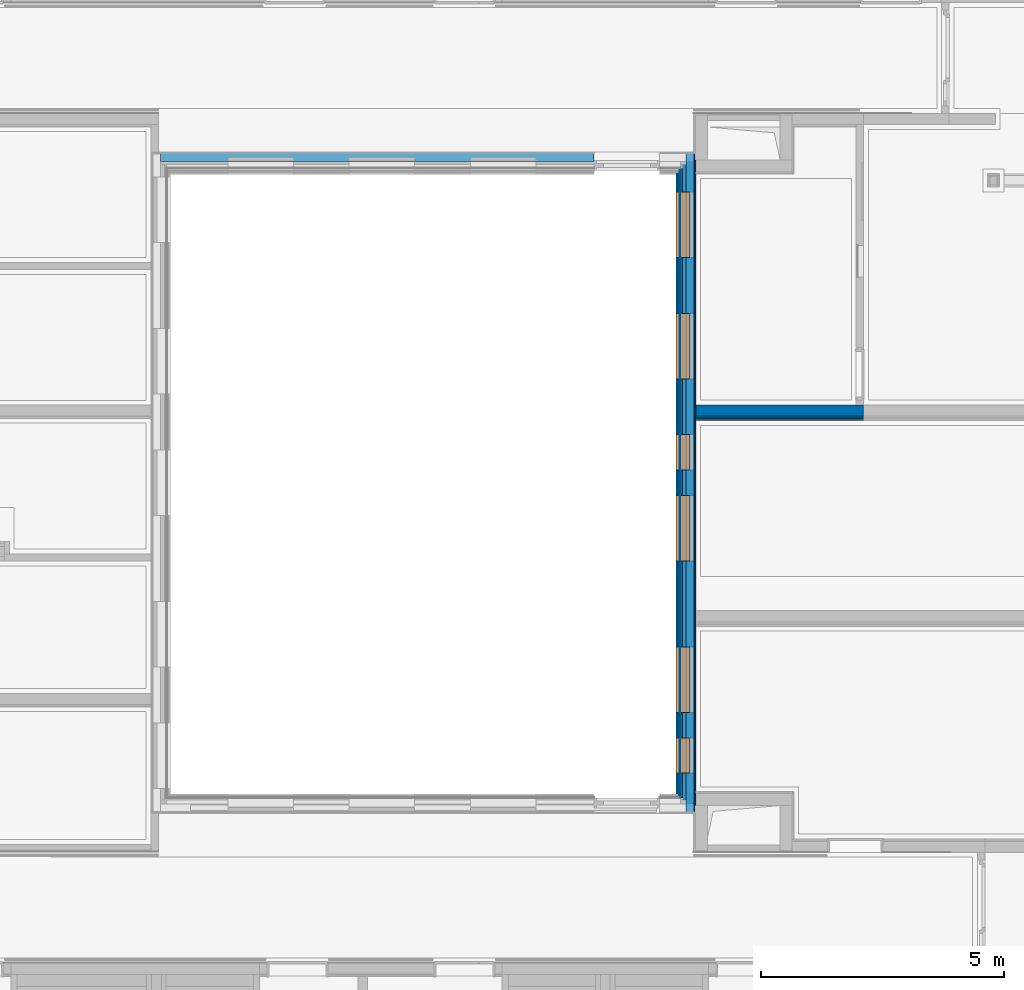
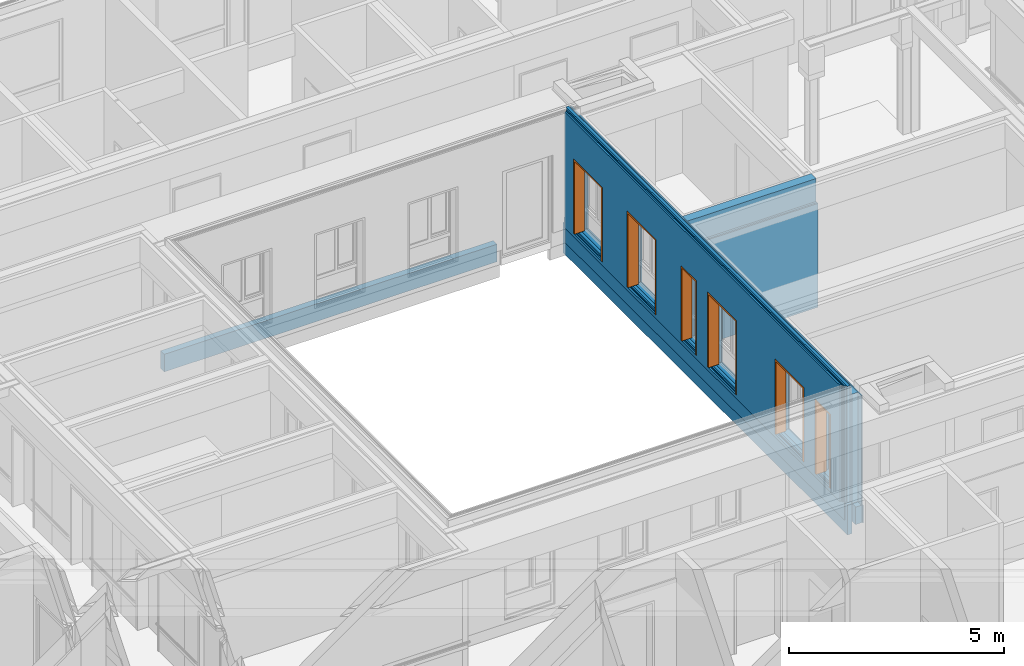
# One storey, part 18 of 207: 15 walls, 6 proxies, 42 openings.
"""IFC4 building model written with IfcOpenShell, lengths in metres."""

from ifc_helpers import new_model, entity, si_unit, converted_unit, derived_unit, frame, frame_2d, origin, origin_with_axes, place, context, subcontext, project, spatial, polyline, rectangle, outline, extrude, faceted_brep, material, element, fill, save


model = new_model("IFC4")

# Units and contexts
model_context = context("Model", 3, precision=1e-05, world=origin())
body_context = subcontext(model_context, "Body", "Model", "MODEL_VIEW")
ifc_project = project(units=[si_unit("LENGTHUNIT", "METRE"), si_unit("AREAUNIT", "SQUARE_METRE"), si_unit("VOLUMEUNIT", "CUBIC_METRE"), si_unit("MASSUNIT", "GRAM", prefix="KILO"), converted_unit("PLANEANGLEUNIT", "DEGREE", entity("IfcPlaneAngleMeasure", 0.0174532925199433), si_unit("PLANEANGLEUNIT", "RADIAN"), dimensions=[0, 0, 0, 0, 0, 0, 0]), derived_unit("THERMALTRANSMITTANCEUNIT", [(si_unit("POWERUNIT", "WATT"), 1), (si_unit("THERMODYNAMICTEMPERATUREUNIT", "KELVIN"), -1), (si_unit("LENGTHUNIT", "METRE"), -2)]), derived_unit("VOLUMETRICFLOWRATEUNIT", [(si_unit("LENGTHUNIT", "METRE"), 3), (converted_unit("TIMEUNIT", "hour", entity("IfcTimeMeasure", 3600.0), si_unit("TIMEUNIT", "SECOND"), dimensions=[0, 0, 1, 0, 0, 0, 0]), -1), (si_unit("LENGTHUNIT", "METRE"), -1)])], contexts=[model_context])

# Site, building, storey
site_placement = place(None, origin())
site = spatial("IfcSite", under=ifc_project, at=site_placement, Name="Psychiatrie Neubau Wunstorf", CompositionType="ELEMENT")
building_placement = place(site_placement, origin())
building = spatial("IfcBuilding", under=site, at=building_placement, Name="Neubau H2 Stationsgebäude", CompositionType="ELEMENT")
storey_placement = place(building_placement, frame((0.0, 0.0, -0.2)))
storey = spatial("IfcBuildingStorey", under=building, at=storey_placement, Name="H2 Ebene 0", CompositionType="ELEMENT", Elevation=-0.2)

# Wall, openings
ifc_material_1 = material(Name="WA-LB")
wall_1_placement = place(storey_placement, frame((26.861, 7.45, 0.5), z_axis=(0.0, 0.0, 1.0), x_axis=(5.36971041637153e-16, 1.0, 0.0)))
wall_1 = element("IfcWall", 1, at=wall_1_placement, inside=storey, material=ifc_material_1, context=body_context, shape_type="SweptSolid", body=[
    extrude(rectangle(XDim=13.55, YDim=0.036, at=frame_2d((6.775, 0.018), x_axis=(1.0, 0.0))), origin_with_axes(), (0.0, 0.0, 1.0), 3.1),
])
opening_1_placement = place(wall_1_placement, frame((3.39244477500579, 0.0359999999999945, 0.1), z_axis=(0.0, -1.0, 0.0), x_axis=(0.0, 0.0, 1.0)))
element("IfcOpeningElement", 2, at=opening_1_placement, cuts=wall_1, Name="Fensteröffnung", ObjectType="Opening", context=body_context, shape_type="SweptSolid", body=[
    extrude(outline(polyline([(2.12, 1.35), (2.12, 0.0), (0.0, 0.0), (0.0, 1.35), (2.12, 1.35)])), origin_with_axes(), (0.0, 0.0, 1.0), 0.036),
])
opening_2_placement = place(wall_1_placement, frame((7.76505754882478, 0.0360000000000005, 0.1), z_axis=(0.0, -1.0, 0.0), x_axis=(0.0, 0.0, 1.0)))
element("IfcOpeningElement", 3, at=opening_2_placement, cuts=wall_1, Name="Fensteröffnung", ObjectType="Opening", context=body_context, shape_type="SweptSolid", body=[
    extrude(outline(polyline([(2.12, 0.725), (2.12, 0.0), (0.0, 0.0), (0.0, 0.725), (2.12, 0.725)])), origin_with_axes(), (0.0, 0.0, 1.0), 0.036),
])
opening_3_placement = place(wall_1_placement, frame((12.765, 0.0359999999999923, 0.1), z_axis=(0.0, -1.0, 0.0), x_axis=(0.0, 0.0, 1.0)))
element("IfcOpeningElement", 4, at=opening_3_placement, cuts=wall_1, Name="Fensteröffnung", ObjectType="Opening", context=body_context, shape_type="SweptSolid", body=[
    extrude(outline(polyline([(2.12, 1.35), (2.12, 0.0), (0.0, 0.0), (0.0, 1.35), (2.12, 1.35)])), origin_with_axes(), (0.0, 0.0, 1.0), 0.036),
])
opening_4_placement = place(wall_1_placement, frame((10.2654401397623, 0.0359999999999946, 0.1), z_axis=(0.0, -1.0, 0.0), x_axis=(0.0, 0.0, 1.0)))
element("IfcOpeningElement", 5, at=opening_4_placement, cuts=wall_1, Name="Fensteröffnung", ObjectType="Opening", context=body_context, shape_type="SweptSolid", body=[
    extrude(outline(polyline([(2.15, 1.35), (2.15, 0.0), (0.0, 0.0), (0.0, 1.35), (2.15, 1.35)])), origin_with_axes(), (0.0, 0.0, 1.0), 0.036),
])
opening_5_placement = place(wall_1_placement, frame((1.51744478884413, 0.0359999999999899, 0.1), z_axis=(0.0, -1.0, 0.0), x_axis=(0.0, 0.0, 1.0)))
element("IfcOpeningElement", 6, at=opening_5_placement, cuts=wall_1, Name="Fensteröffnung", ObjectType="Opening", context=body_context, shape_type="SweptSolid", body=[
    extrude(outline(polyline([(2.12, 0.725), (2.12, 0.0), (0.0, 0.0), (0.0, 0.725), (2.12, 0.725)])), origin_with_axes(), (0.0, 0.0, 1.0), 0.036),
])
opening_6_placement = place(wall_1_placement, frame((6.51580066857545, 0.0359999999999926, 0.1), z_axis=(0.0, -1.0, 0.0), x_axis=(0.0, 0.0, 1.0)))
element("IfcOpeningElement", 7, at=opening_6_placement, cuts=wall_1, Name="Fensteröffnung", ObjectType="Opening", context=body_context, shape_type="SweptSolid", body=[
    extrude(outline(polyline([(2.12, 1.35), (2.12, 0.0), (0.0, 0.0), (0.0, 1.35), (2.12, 1.35)])), origin_with_axes(), (0.0, 0.0, 1.0), 0.036),
])

# Wall, openings, proxies
ifc_material_2 = material(Name="WA-HD")
wall_2_placement = place(storey_placement, frame((26.825, 7.61, 0.5), z_axis=(0.0, 0.0, 1.0), x_axis=(5.49959003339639e-16, 1.0, 0.0)))
wall_2 = element("IfcWall", 8, at=wall_2_placement, inside=storey, material=ifc_material_2, context=body_context, shape_type="SweptSolid", body=[
    extrude(rectangle(XDim=13.23, YDim=0.16, at=frame_2d((6.615, 0.08), x_axis=(1.0, 0.0))), origin_with_axes(), (0.0, 0.0, 1.0), 3.1),
])
opening_7_placement = place(wall_2_placement, frame((3.23244477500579, 0.159999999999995, 0.1), z_axis=(0.0, -1.0, 0.0), x_axis=(0.0, 0.0, 1.0)))
opening_7 = element("IfcOpeningElement", 9, at=opening_7_placement, cuts=wall_2, Name="Fensteröffnung", ObjectType="Opening", context=body_context, shape_type="SweptSolid", body=[
    extrude(outline(polyline([(2.12, 1.35), (2.12, 0.0), (0.0, 0.0), (0.0, 1.35), (2.12, 1.35)])), origin_with_axes(), (0.0, 0.0, 1.0), 0.16),
])
opening_8_placement = place(wall_2_placement, frame((7.60505754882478, 0.160000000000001, 0.1), z_axis=(0.0, -1.0, 0.0), x_axis=(0.0, 0.0, 1.0)))
opening_8 = element("IfcOpeningElement", 10, at=opening_8_placement, cuts=wall_2, Name="Fensteröffnung", ObjectType="Opening", context=body_context, shape_type="SweptSolid", body=[
    extrude(outline(polyline([(2.12, 0.725), (2.12, 0.0), (0.0, 0.0), (0.0, 0.725), (2.12, 0.725)])), origin_with_axes(), (0.0, 0.0, 1.0), 0.16),
])
opening_9_placement = place(wall_2_placement, frame((12.605, 0.159999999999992, 0.1), z_axis=(0.0, -1.0, 0.0), x_axis=(0.0, 0.0, 1.0)))
opening_9 = element("IfcOpeningElement", 11, at=opening_9_placement, cuts=wall_2, Name="Fensteröffnung", ObjectType="Opening", context=body_context, shape_type="SweptSolid", body=[
    extrude(outline(polyline([(2.12, 1.35), (2.12, 0.0), (0.0, 0.0), (0.0, 1.35), (2.12, 1.35)])), origin_with_axes(), (0.0, 0.0, 1.0), 0.16),
])
opening_10_placement = place(wall_2_placement, frame((10.1054401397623, 0.159999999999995, 0.1), z_axis=(0.0, -1.0, 0.0), x_axis=(0.0, 0.0, 1.0)))
opening_10 = element("IfcOpeningElement", 12, at=opening_10_placement, cuts=wall_2, Name="Fensteröffnung", ObjectType="Opening", context=body_context, shape_type="SweptSolid", body=[
    extrude(outline(polyline([(2.15, 1.35), (2.15, 0.0), (0.0, 0.0), (0.0, 1.35), (2.15, 1.35)])), origin_with_axes(), (0.0, 0.0, 1.0), 0.16),
])
opening_11_placement = place(wall_2_placement, frame((1.35744478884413, 0.15999999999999, 0.1), z_axis=(0.0, -1.0, 0.0), x_axis=(0.0, 0.0, 1.0)))
opening_11 = element("IfcOpeningElement", 13, at=opening_11_placement, cuts=wall_2, Name="Fensteröffnung", ObjectType="Opening", context=body_context, shape_type="SweptSolid", body=[
    extrude(outline(polyline([(2.12, 0.725), (2.12, 0.0), (0.0, 0.0), (0.0, 0.725), (2.12, 0.725)])), origin_with_axes(), (0.0, 0.0, 1.0), 0.16),
])
opening_12_placement = place(wall_2_placement, frame((6.35580066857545, 0.159999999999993, 0.1), z_axis=(0.0, -1.0, 0.0), x_axis=(0.0, 0.0, 1.0)))
opening_12 = element("IfcOpeningElement", 14, at=opening_12_placement, cuts=wall_2, Name="Fensteröffnung", ObjectType="Opening", context=body_context, shape_type="SweptSolid", body=[
    extrude(outline(polyline([(2.12, 1.35), (2.12, 0.0), (0.0, 0.0), (0.0, 1.35), (2.12, 1.35)])), origin_with_axes(), (0.0, 0.0, 1.0), 0.16),
])
ifc_material_3 = material(Name="WA-HS")
proxy_1_placement = place(opening_7_placement, frame((0.0, 1.35, -0.205999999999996)))
proxy_1 = element("IfcBuildingElementProxy", 15, at=proxy_1_placement, inside=storey, material=ifc_material_3, context=body_context, shape_type="Brep", body=[
    faceted_brep([(0.0, 0.0, 0.275), (0.0, 0.0, 0.0), (2.12, 0.0, 0.0), (2.12, 0.0, 0.275), (2.12, -1.35, 0.0), (2.12, -1.35, 0.274999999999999), (0.0, -0.05, 0.0), (0.0, -0.0500000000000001, 0.275), (0.0, -1.35, 0.274999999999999), (0.0, -1.3, 0.274999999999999), (2.07, -1.3, 0.274999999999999), (2.07, -0.0500000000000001, 0.275), (2.07, -0.05, 0.0), (2.07, -1.3, 0.0), (0.0, -1.3, 0.0), (0.0, -1.35, 0.0)], [[[0, 1, 2, 3]], [[2, 4, 5, 3]], [[6, 1, 0, 7]], [[7, 0, 3, 5, 8, 9, 10, 11]], [[1, 6, 12, 13, 14, 15, 4, 2]], [[6, 7, 11, 12]], [[15, 8, 5, 4]], [[15, 14, 9, 8]], [[9, 14, 13, 10]], [[10, 13, 12, 11]]], orient=[[False], [False], [False], [False], [False], [False], [False], [False], [False], [False]]),
])
fill(opening_7, proxy_1)
ifc_material_4 = material(Name="WA-HS")
proxy_2_placement = place(opening_8_placement, frame((0.0, 0.725, -0.206)))
proxy_2 = element("IfcBuildingElementProxy", 16, at=proxy_2_placement, inside=storey, material=ifc_material_4, context=body_context, shape_type="Brep", body=[
    faceted_brep([(0.0, 0.0, 0.275), (0.0, 0.0, 0.0), (2.12, 0.0, 0.0), (2.12, 0.0, 0.275), (2.12, -0.725, 0.0), (2.12, -0.725, 0.275), (0.0, -0.05, 0.0), (0.0, -0.0500000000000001, 0.275), (0.0, -0.725, 0.275), (0.0, -0.675, 0.275), (2.07, -0.675, 0.275), (2.07, -0.0500000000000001, 0.275), (2.07, -0.05, 0.0), (2.07, -0.675, 0.0), (0.0, -0.675, 0.0), (0.0, -0.725, 0.0)], [[[0, 1, 2, 3]], [[2, 4, 5, 3]], [[6, 1, 0, 7]], [[7, 0, 3, 5, 8, 9, 10, 11]], [[1, 6, 12, 13, 14, 15, 4, 2]], [[6, 7, 11, 12]], [[15, 8, 5, 4]], [[15, 14, 9, 8]], [[9, 14, 13, 10]], [[10, 13, 12, 11]]], orient=[[False], [False], [False], [False], [False], [False], [False], [False], [False], [False]]),
])
fill(opening_8, proxy_2)
ifc_material_5 = material(Name="WA-HS")
proxy_3_placement = place(opening_9_placement, frame((0.0, 1.35, -0.206)))
proxy_3 = element("IfcBuildingElementProxy", 17, at=proxy_3_placement, inside=storey, material=ifc_material_5, context=body_context, shape_type="Brep", body=[
    faceted_brep([(0.0, 0.0, 0.275), (0.0, 0.0, 0.0), (2.12, 0.0, 0.0), (2.12, 0.0, 0.275), (2.12, -1.35, 0.0), (2.12, -1.35, 0.274999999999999), (0.0, -0.05, 0.0), (0.0, -0.0500000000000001, 0.275), (0.0, -1.35, 0.274999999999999), (0.0, -1.3, 0.274999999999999), (2.07, -1.3, 0.274999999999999), (2.07, -0.0500000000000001, 0.275), (2.07, -0.05, 0.0), (2.07, -1.3, 0.0), (0.0, -1.3, 0.0), (0.0, -1.35, 0.0)], [[[0, 1, 2, 3]], [[2, 4, 5, 3]], [[6, 1, 0, 7]], [[7, 0, 3, 5, 8, 9, 10, 11]], [[1, 6, 12, 13, 14, 15, 4, 2]], [[6, 7, 11, 12]], [[15, 8, 5, 4]], [[15, 14, 9, 8]], [[9, 14, 13, 10]], [[10, 13, 12, 11]]], orient=[[False], [False], [False], [False], [False], [False], [False], [False], [False], [False]]),
])
fill(opening_9, proxy_3)
ifc_material_6 = material(Name="WA-HS")
proxy_4_placement = place(opening_10_placement, frame((0.0, 1.35, -0.205999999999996)))
proxy_4 = element("IfcBuildingElementProxy", 18, at=proxy_4_placement, inside=storey, material=ifc_material_6, context=body_context, shape_type="Brep", body=[
    faceted_brep([(0.0, -1.35, 0.0), (0.0, -1.35, 0.274999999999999), (2.15, -1.35, 0.274999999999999), (2.15, -1.35, 0.0), (0.0, -1.3, 0.274999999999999), (0.0, -1.3, 0.0), (2.1, -1.3, 0.0), (2.1, -1.3, 0.274999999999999), (2.15, 0.0, 0.275), (2.15, 0.0, 0.0), (0.0, 0.0, 0.0), (0.0, -0.05, 0.0), (2.1, -0.05, 0.0), (2.1, -0.0500000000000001, 0.275), (0.0, -0.0500000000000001, 0.275), (0.0, 0.0, 0.275)], [[[0, 1, 2, 3]], [[4, 5, 6, 7]], [[0, 5, 4, 1]], [[3, 2, 8, 9]], [[6, 5, 0, 3, 9, 10, 11, 12]], [[13, 14, 15, 8, 2, 1, 4, 7]], [[7, 6, 12, 13]], [[11, 14, 13, 12]], [[15, 10, 9, 8]], [[11, 10, 15, 14]]], orient=[[False], [False], [False], [False], [False], [False], [False], [False], [False], [False]]),
])
fill(opening_10, proxy_4)
ifc_material_7 = material(Name="WA-HS")
proxy_5_placement = place(opening_11_placement, frame((0.0, 0.725, -0.206)))
proxy_5 = element("IfcBuildingElementProxy", 19, at=proxy_5_placement, inside=storey, material=ifc_material_7, context=body_context, shape_type="Brep", body=[
    faceted_brep([(0.0, -0.725, 0.0), (0.0, -0.725, 0.275), (2.12, -0.725, 0.275), (2.12, -0.725, 0.0), (0.0, -0.675, 0.275), (0.0, -0.675, 0.0), (2.07, -0.675, 0.0), (2.07, -0.675, 0.275), (2.12, 0.0, 0.275), (2.12, 0.0, 0.0), (0.0, 0.0, 0.0), (0.0, -0.05, 0.0), (2.07, -0.05, 0.0), (2.07, -0.0500000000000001, 0.275), (0.0, -0.0500000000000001, 0.275), (0.0, 0.0, 0.275)], [[[0, 1, 2, 3]], [[4, 5, 6, 7]], [[0, 5, 4, 1]], [[3, 2, 8, 9]], [[6, 5, 0, 3, 9, 10, 11, 12]], [[13, 14, 15, 8, 2, 1, 4, 7]], [[7, 6, 12, 13]], [[11, 14, 13, 12]], [[15, 10, 9, 8]], [[11, 10, 15, 14]]], orient=[[False], [False], [False], [False], [False], [False], [False], [False], [False], [False]]),
])
fill(opening_11, proxy_5)
ifc_material_8 = material(Name="WA-HS")
proxy_6_placement = place(opening_12_placement, frame((0.0, 1.35, -0.206)))
proxy_6 = element("IfcBuildingElementProxy", 20, at=proxy_6_placement, inside=storey, material=ifc_material_8, context=body_context, shape_type="Brep", body=[
    faceted_brep([(0.0, 0.0, 0.275), (0.0, 0.0, 0.0), (2.12, 0.0, 0.0), (2.12, 0.0, 0.275), (2.12, -1.35, 0.0), (2.12, -1.35, 0.274999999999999), (0.0, -0.05, 0.0), (0.0, -0.0500000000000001, 0.275), (0.0, -1.35, 0.274999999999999), (0.0, -1.3, 0.274999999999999), (2.07, -1.3, 0.274999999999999), (2.07, -0.0500000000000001, 0.275), (2.07, -0.05, 0.0), (2.07, -1.3, 0.0), (0.0, -1.3, 0.0), (0.0, -1.35, 0.0)], [[[0, 1, 2, 3]], [[2, 4, 5, 3]], [[6, 1, 0, 7]], [[7, 0, 3, 5, 8, 9, 10, 11]], [[1, 6, 12, 13, 14, 15, 4, 2]], [[6, 7, 11, 12]], [[15, 8, 5, 4]], [[15, 14, 9, 8]], [[9, 14, 13, 10]], [[10, 13, 12, 11]]], orient=[[False], [False], [False], [False], [False], [False], [False], [False], [False], [False]]),
])
fill(opening_12, proxy_6)

# Wall, openings
ifc_material_9 = material(Name="WA-DL")
wall_3_placement = place(storey_placement, frame((26.665, 7.69, 0.5), z_axis=(0.0, 0.0, 1.0), x_axis=(5.5584091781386e-16, 1.0, 0.0)))
wall_3 = element("IfcWall", 21, at=wall_3_placement, inside=storey, material=ifc_material_9, context=body_context, shape_type="SweptSolid", body=[
    extrude(rectangle(XDim=13.09, YDim=0.08, at=frame_2d((6.545, 0.04), x_axis=(1.0, 0.0))), origin_with_axes(), (0.0, 0.0, 1.0), 3.3),
])
opening_13_placement = place(wall_3_placement, frame((3.15244477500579, 0.0799999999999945, 0.1), z_axis=(0.0, -1.0, 0.0), x_axis=(0.0, 0.0, 1.0)))
element("IfcOpeningElement", 22, at=opening_13_placement, cuts=wall_3, Name="Fensteröffnung", ObjectType="Opening", context=body_context, shape_type="SweptSolid", body=[
    extrude(outline(polyline([(2.12, 1.35), (2.12, 0.0), (0.0, 0.0), (0.0, 1.35), (2.12, 1.35)])), origin_with_axes(), (0.0, 0.0, 1.0), 0.08),
])
opening_14_placement = place(wall_3_placement, frame((7.52505754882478, 0.0800000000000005, 0.1), z_axis=(0.0, -1.0, 0.0), x_axis=(0.0, 0.0, 1.0)))
element("IfcOpeningElement", 23, at=opening_14_placement, cuts=wall_3, Name="Fensteröffnung", ObjectType="Opening", context=body_context, shape_type="SweptSolid", body=[
    extrude(outline(polyline([(2.12, 0.725), (2.12, 0.0), (0.0, 0.0), (0.0, 0.725), (2.12, 0.725)])), origin_with_axes(), (0.0, 0.0, 1.0), 0.08),
])
opening_15_placement = place(wall_3_placement, frame((12.525, 0.0799999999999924, 0.1), z_axis=(0.0, -1.0, 0.0), x_axis=(0.0, 0.0, 1.0)))
element("IfcOpeningElement", 24, at=opening_15_placement, cuts=wall_3, Name="Fensteröffnung", ObjectType="Opening", context=body_context, shape_type="SweptSolid", body=[
    extrude(outline(polyline([(2.12, 1.35), (2.12, 0.0), (0.0, 0.0), (0.0, 1.35), (2.12, 1.35)])), origin_with_axes(), (0.0, 0.0, 1.0), 0.08),
])
opening_16_placement = place(wall_3_placement, frame((10.0254401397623, 0.0799999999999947, 0.1), z_axis=(0.0, -1.0, 0.0), x_axis=(0.0, 0.0, 1.0)))
element("IfcOpeningElement", 25, at=opening_16_placement, cuts=wall_3, Name="Fensteröffnung", ObjectType="Opening", context=body_context, shape_type="SweptSolid", body=[
    extrude(outline(polyline([(2.15, 1.35), (2.15, 0.0), (0.0, 0.0), (0.0, 1.35), (2.15, 1.35)])), origin_with_axes(), (0.0, 0.0, 1.0), 0.08),
])
opening_17_placement = place(wall_3_placement, frame((1.27744478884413, 0.0799999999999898, 0.1), z_axis=(0.0, -1.0, 0.0), x_axis=(0.0, 0.0, 1.0)))
element("IfcOpeningElement", 26, at=opening_17_placement, cuts=wall_3, Name="Fensteröffnung", ObjectType="Opening", context=body_context, shape_type="SweptSolid", body=[
    extrude(outline(polyline([(2.12, 0.725), (2.12, 0.0), (0.0, 0.0), (0.0, 0.725), (2.12, 0.725)])), origin_with_axes(), (0.0, 0.0, 1.0), 0.08),
])
opening_18_placement = place(wall_3_placement, frame((6.27580066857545, 0.0799999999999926, 0.1), z_axis=(0.0, -1.0, 0.0), x_axis=(0.0, 0.0, 1.0)))
element("IfcOpeningElement", 27, at=opening_18_placement, cuts=wall_3, Name="Fensteröffnung", ObjectType="Opening", context=body_context, shape_type="SweptSolid", body=[
    extrude(outline(polyline([(2.12, 1.35), (2.12, 0.0), (0.0, 0.0), (0.0, 1.35), (2.12, 1.35)])), origin_with_axes(), (0.0, 0.0, 1.0), 0.08),
])

ifc_material_10 = material(Name="WA-LB")
wall_4_placement = place(storey_placement, frame((26.585, 7.726, 0.5), z_axis=(0.0, 0.0, 1.0), x_axis=(5.60810668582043e-16, 1.0, 0.0)))
wall_4 = element("IfcWall", 28, at=wall_4_placement, inside=storey, material=ifc_material_10, context=body_context, shape_type="SweptSolid", body=[
    extrude(rectangle(XDim=12.974, YDim=0.036, at=frame_2d((6.487, 0.018), x_axis=(1.0, 0.0))), origin_with_axes(), (0.0, 0.0, 1.0), 3.3),
])
opening_19_placement = place(wall_4_placement, frame((3.11644477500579, 0.0359999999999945, 0.1), z_axis=(0.0, -1.0, 0.0), x_axis=(0.0, 0.0, 1.0)))
element("IfcOpeningElement", 29, at=opening_19_placement, cuts=wall_4, Name="Fensteröffnung", ObjectType="Opening", context=body_context, shape_type="SweptSolid", body=[
    extrude(outline(polyline([(2.12, 1.35), (2.12, 0.0), (0.0, 0.0), (0.0, 1.35), (2.12, 1.35)])), origin_with_axes(), (0.0, 0.0, 1.0), 0.036),
])
opening_20_placement = place(wall_4_placement, frame((7.48905754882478, 0.0360000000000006, 0.1), z_axis=(0.0, -1.0, 0.0), x_axis=(0.0, 0.0, 1.0)))
element("IfcOpeningElement", 30, at=opening_20_placement, cuts=wall_4, Name="Fensteröffnung", ObjectType="Opening", context=body_context, shape_type="SweptSolid", body=[
    extrude(outline(polyline([(2.12, 0.725), (2.12, 0.0), (0.0, 0.0), (0.0, 0.725), (2.12, 0.725)])), origin_with_axes(), (0.0, 0.0, 1.0), 0.036),
])
opening_21_placement = place(wall_4_placement, frame((12.489, 0.0359999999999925, 0.1), z_axis=(0.0, -1.0, 0.0), x_axis=(0.0, 0.0, 1.0)))
element("IfcOpeningElement", 31, at=opening_21_placement, cuts=wall_4, Name="Fensteröffnung", ObjectType="Opening", context=body_context, shape_type="SweptSolid", body=[
    extrude(outline(polyline([(2.12, 1.35), (2.12, 0.0), (0.0, 0.0), (0.0, 1.35), (2.12, 1.35)])), origin_with_axes(), (0.0, 0.0, 1.0), 0.036),
])
opening_22_placement = place(wall_4_placement, frame((9.98944013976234, 0.0359999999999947, 0.1), z_axis=(0.0, -1.0, 0.0), x_axis=(0.0, 0.0, 1.0)))
element("IfcOpeningElement", 32, at=opening_22_placement, cuts=wall_4, Name="Fensteröffnung", ObjectType="Opening", context=body_context, shape_type="SweptSolid", body=[
    extrude(outline(polyline([(2.15, 1.35), (2.15, 0.0), (0.0, 0.0), (0.0, 1.35), (2.15, 1.35)])), origin_with_axes(), (0.0, 0.0, 1.0), 0.036),
])
opening_23_placement = place(wall_4_placement, frame((1.24144478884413, 0.0359999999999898, 0.1), z_axis=(0.0, -1.0, 0.0), x_axis=(0.0, 0.0, 1.0)))
element("IfcOpeningElement", 33, at=opening_23_placement, cuts=wall_4, Name="Fensteröffnung", ObjectType="Opening", context=body_context, shape_type="SweptSolid", body=[
    extrude(outline(polyline([(2.12, 0.725), (2.12, 0.0), (0.0, 0.0), (0.0, 0.725), (2.12, 0.725)])), origin_with_axes(), (0.0, 0.0, 1.0), 0.036),
])
opening_24_placement = place(wall_4_placement, frame((6.23980066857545, 0.0359999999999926, 0.1), z_axis=(0.0, -1.0, 0.0), x_axis=(0.0, 0.0, 1.0)))
element("IfcOpeningElement", 34, at=opening_24_placement, cuts=wall_4, Name="Fensteröffnung", ObjectType="Opening", context=body_context, shape_type="SweptSolid", body=[
    extrude(outline(polyline([(2.12, 1.35), (2.12, 0.0), (0.0, 0.0), (0.0, 1.35), (2.12, 1.35)])), origin_with_axes(), (0.0, 0.0, 1.0), 0.036),
])

ifc_material_11 = material(Name="WA-KL")
wall_5_placement = place(storey_placement, frame((26.549, 7.75, 0.5), z_axis=(0.0, 0.0, 1.0), x_axis=(5.63416262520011e-16, 1.0, 0.0)))
wall_5 = element("IfcWall", 35, at=wall_5_placement, inside=storey, material=ifc_material_11, context=body_context, shape_type="SweptSolid", body=[
    extrude(rectangle(XDim=12.914, YDim=0.024, at=frame_2d((6.457, 0.012), x_axis=(1.0, 0.0))), origin_with_axes(), (0.0, 0.0, 1.0), 3.3),
])
opening_25_placement = place(wall_5_placement, frame((3.09244477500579, 0.0239999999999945, 0.1), z_axis=(0.0, -1.0, 0.0), x_axis=(0.0, 0.0, 1.0)))
element("IfcOpeningElement", 36, at=opening_25_placement, cuts=wall_5, Name="Fensteröffnung", ObjectType="Opening", context=body_context, shape_type="SweptSolid", body=[
    extrude(outline(polyline([(2.12, 1.35), (2.12, 0.0), (0.0, 0.0), (0.0, 1.35), (2.12, 1.35)])), origin_with_axes(), (0.0, 0.0, 1.0), 0.024),
])
opening_26_placement = place(wall_5_placement, frame((7.46505754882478, 0.0240000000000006, 0.1), z_axis=(0.0, -1.0, 0.0), x_axis=(0.0, 0.0, 1.0)))
element("IfcOpeningElement", 37, at=opening_26_placement, cuts=wall_5, Name="Fensteröffnung", ObjectType="Opening", context=body_context, shape_type="SweptSolid", body=[
    extrude(outline(polyline([(2.12, 0.725), (2.12, 0.0), (0.0, 0.0), (0.0, 0.725), (2.12, 0.725)])), origin_with_axes(), (0.0, 0.0, 1.0), 0.024),
])
opening_27_placement = place(wall_5_placement, frame((12.465, 0.0239999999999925, 0.1), z_axis=(0.0, -1.0, 0.0), x_axis=(0.0, 0.0, 1.0)))
element("IfcOpeningElement", 38, at=opening_27_placement, cuts=wall_5, Name="Fensteröffnung", ObjectType="Opening", context=body_context, shape_type="SweptSolid", body=[
    extrude(outline(polyline([(2.12, 1.35), (2.12, 0.0), (0.0, 0.0), (0.0, 1.35), (2.12, 1.35)])), origin_with_axes(), (0.0, 0.0, 1.0), 0.024),
])
opening_28_placement = place(wall_5_placement, frame((9.96544013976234, 0.0239999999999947, 0.1), z_axis=(0.0, -1.0, 0.0), x_axis=(0.0, 0.0, 1.0)))
element("IfcOpeningElement", 39, at=opening_28_placement, cuts=wall_5, Name="Fensteröffnung", ObjectType="Opening", context=body_context, shape_type="SweptSolid", body=[
    extrude(outline(polyline([(2.15, 1.35), (2.15, 0.0), (0.0, 0.0), (0.0, 1.35), (2.15, 1.35)])), origin_with_axes(), (0.0, 0.0, 1.0), 0.024),
])
opening_29_placement = place(wall_5_placement, frame((1.21744478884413, 0.0239999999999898, 0.1), z_axis=(0.0, -1.0, 0.0), x_axis=(0.0, 0.0, 1.0)))
element("IfcOpeningElement", 40, at=opening_29_placement, cuts=wall_5, Name="Fensteröffnung", ObjectType="Opening", context=body_context, shape_type="SweptSolid", body=[
    extrude(outline(polyline([(2.12, 0.725), (2.12, 0.0), (0.0, 0.0), (0.0, 0.725), (2.12, 0.725)])), origin_with_axes(), (0.0, 0.0, 1.0), 0.024),
])
opening_30_placement = place(wall_5_placement, frame((6.21580066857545, 0.0239999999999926, 0.1), z_axis=(0.0, -1.0, 0.0), x_axis=(0.0, 0.0, 1.0)))
element("IfcOpeningElement", 41, at=opening_30_placement, cuts=wall_5, Name="Fensteröffnung", ObjectType="Opening", context=body_context, shape_type="SweptSolid", body=[
    extrude(outline(polyline([(2.12, 1.35), (2.12, 0.0), (0.0, 0.0), (0.0, 1.35), (2.12, 1.35)])), origin_with_axes(), (0.0, 0.0, 1.0), 0.024),
])

ifc_material_12 = material(Name="WA-TL")
wall_6_placement = place(storey_placement, frame((26.525, 7.774, 0.5), z_axis=(0.0, 0.0, 1.0), x_axis=(5.6551823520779e-16, 1.0, 0.0)))
wall_6 = element("IfcWall", 42, at=wall_6_placement, inside=storey, material=ifc_material_12, context=body_context, shape_type="SweptSolid", body=[
    extrude(rectangle(XDim=12.866, YDim=0.024, at=frame_2d((6.433, 0.012), x_axis=(1.0, 0.0))), origin_with_axes(), (0.0, 0.0, 1.0), 3.3),
])
opening_31_placement = place(wall_6_placement, frame((3.06844477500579, 0.0239999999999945, 0.1), z_axis=(0.0, -1.0, 0.0), x_axis=(0.0, 0.0, 1.0)))
element("IfcOpeningElement", 43, at=opening_31_placement, cuts=wall_6, Name="Fensteröffnung", ObjectType="Opening", context=body_context, shape_type="SweptSolid", body=[
    extrude(outline(polyline([(2.12, 1.35), (2.12, 0.0), (0.0, 0.0), (0.0, 1.35), (2.12, 1.35)])), origin_with_axes(), (0.0, 0.0, 1.0), 0.024),
])
opening_32_placement = place(wall_6_placement, frame((7.44105754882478, 0.0240000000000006, 0.1), z_axis=(0.0, -1.0, 0.0), x_axis=(0.0, 0.0, 1.0)))
element("IfcOpeningElement", 44, at=opening_32_placement, cuts=wall_6, Name="Fensteröffnung", ObjectType="Opening", context=body_context, shape_type="SweptSolid", body=[
    extrude(outline(polyline([(2.12, 0.725), (2.12, 0.0), (0.0, 0.0), (0.0, 0.725), (2.12, 0.725)])), origin_with_axes(), (0.0, 0.0, 1.0), 0.024),
])
opening_33_placement = place(wall_6_placement, frame((12.441, 0.0239999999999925, 0.1), z_axis=(0.0, -1.0, 0.0), x_axis=(0.0, 0.0, 1.0)))
element("IfcOpeningElement", 45, at=opening_33_placement, cuts=wall_6, Name="Fensteröffnung", ObjectType="Opening", context=body_context, shape_type="SweptSolid", body=[
    extrude(outline(polyline([(2.12, 1.35), (2.12, 0.0), (0.0, 0.0), (0.0, 1.35), (2.12, 1.35)])), origin_with_axes(), (0.0, 0.0, 1.0), 0.024),
])
opening_34_placement = place(wall_6_placement, frame((9.94144013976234, 0.0239999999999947, 0.1), z_axis=(0.0, -1.0, 0.0), x_axis=(0.0, 0.0, 1.0)))
element("IfcOpeningElement", 46, at=opening_34_placement, cuts=wall_6, Name="Fensteröffnung", ObjectType="Opening", context=body_context, shape_type="SweptSolid", body=[
    extrude(outline(polyline([(2.15, 1.35), (2.15, 0.0), (0.0, 0.0), (0.0, 1.35), (2.15, 1.35)])), origin_with_axes(), (0.0, 0.0, 1.0), 0.024),
])
opening_35_placement = place(wall_6_placement, frame((1.19344478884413, 0.0239999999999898, 0.1), z_axis=(0.0, -1.0, 0.0), x_axis=(0.0, 0.0, 1.0)))
element("IfcOpeningElement", 47, at=opening_35_placement, cuts=wall_6, Name="Fensteröffnung", ObjectType="Opening", context=body_context, shape_type="SweptSolid", body=[
    extrude(outline(polyline([(2.12, 0.725), (2.12, 0.0), (0.0, 0.0), (0.0, 0.725), (2.12, 0.725)])), origin_with_axes(), (0.0, 0.0, 1.0), 0.024),
])
opening_36_placement = place(wall_6_placement, frame((6.19180066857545, 0.0239999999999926, 0.1), z_axis=(0.0, -1.0, 0.0), x_axis=(0.0, 0.0, 1.0)))
element("IfcOpeningElement", 48, at=opening_36_placement, cuts=wall_6, Name="Fensteröffnung", ObjectType="Opening", context=body_context, shape_type="SweptSolid", body=[
    extrude(outline(polyline([(2.12, 1.35), (2.12, 0.0), (0.0, 0.0), (0.0, 1.35), (2.12, 1.35)])), origin_with_axes(), (0.0, 0.0, 1.0), 0.024),
])

ifc_material_13 = material(Name="WA-HS")
wall_7_placement = place(storey_placement, frame((26.501, 7.816, 0.5), z_axis=(0.0, 0.0, 1.0), x_axis=(5.6843418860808e-16, 1.0, 0.0)))
wall_7 = element("IfcWall", 49, at=wall_7_placement, inside=storey, material=ifc_material_13, context=body_context, shape_type="SweptSolid", body=[
    extrude(rectangle(XDim=12.8, YDim=0.042, at=frame_2d((6.4, 0.021), x_axis=(1.0, 0.0))), origin_with_axes(), (0.0, 0.0, 1.0), 3.3),
])
opening_37_placement = place(wall_7_placement, frame((3.02644477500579, 0.0419999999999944, 0.1), z_axis=(0.0, -1.0, 0.0), x_axis=(0.0, 0.0, 1.0)))
element("IfcOpeningElement", 50, at=opening_37_placement, cuts=wall_7, Name="Fensteröffnung", ObjectType="Opening", context=body_context, shape_type="SweptSolid", body=[
    extrude(outline(polyline([(2.12, 1.35), (2.12, 0.0), (0.0, 0.0), (0.0, 1.35), (2.12, 1.35)])), origin_with_axes(), (0.0, 0.0, 1.0), 0.042),
])
opening_38_placement = place(wall_7_placement, frame((7.39905754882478, 0.0420000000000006, 0.1), z_axis=(0.0, -1.0, 0.0), x_axis=(0.0, 0.0, 1.0)))
element("IfcOpeningElement", 51, at=opening_38_placement, cuts=wall_7, Name="Fensteröffnung", ObjectType="Opening", context=body_context, shape_type="SweptSolid", body=[
    extrude(outline(polyline([(2.12, 0.725), (2.12, 0.0), (0.0, 0.0), (0.0, 0.725), (2.12, 0.725)])), origin_with_axes(), (0.0, 0.0, 1.0), 0.042),
])
opening_39_placement = place(wall_7_placement, frame((12.399, 0.0419999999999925, 0.1), z_axis=(0.0, -1.0, 0.0), x_axis=(0.0, 0.0, 1.0)))
element("IfcOpeningElement", 52, at=opening_39_placement, cuts=wall_7, Name="Fensteröffnung", ObjectType="Opening", context=body_context, shape_type="SweptSolid", body=[
    extrude(outline(polyline([(2.12, 1.35), (2.12, 0.0), (0.0, 0.0), (0.0, 1.35), (2.12, 1.35)])), origin_with_axes(), (0.0, 0.0, 1.0), 0.042),
])
opening_40_placement = place(wall_7_placement, frame((9.89944013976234, 0.0419999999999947, 0.1), z_axis=(0.0, -1.0, 0.0), x_axis=(0.0, 0.0, 1.0)))
element("IfcOpeningElement", 53, at=opening_40_placement, cuts=wall_7, Name="Fensteröffnung", ObjectType="Opening", context=body_context, shape_type="SweptSolid", body=[
    extrude(outline(polyline([(2.15, 1.35), (2.15, 0.0), (0.0, 0.0), (0.0, 1.35), (2.15, 1.35)])), origin_with_axes(), (0.0, 0.0, 1.0), 0.042),
])
opening_41_placement = place(wall_7_placement, frame((1.15144478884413, 0.0419999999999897, 0.1), z_axis=(0.0, -1.0, 0.0), x_axis=(0.0, 0.0, 1.0)))
element("IfcOpeningElement", 54, at=opening_41_placement, cuts=wall_7, Name="Fensteröffnung", ObjectType="Opening", context=body_context, shape_type="SweptSolid", body=[
    extrude(outline(polyline([(2.12, 0.725), (2.12, 0.0), (0.0, 0.0), (0.0, 0.725), (2.12, 0.725)])), origin_with_axes(), (0.0, 0.0, 1.0), 0.042),
])
opening_42_placement = place(wall_7_placement, frame((6.14980066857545, 0.0419999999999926, 0.1), z_axis=(0.0, -1.0, 0.0), x_axis=(0.0, 0.0, 1.0)))
element("IfcOpeningElement", 55, at=opening_42_placement, cuts=wall_7, Name="Fensteröffnung", ObjectType="Opening", context=body_context, shape_type="SweptSolid", body=[
    extrude(outline(polyline([(2.12, 1.35), (2.12, 0.0), (0.0, 0.0), (0.0, 1.35), (2.12, 1.35)])), origin_with_axes(), (0.0, 0.0, 1.0), 0.042),
])

# Walls
ifc_material_14 = material(Name="WA-LB")
wall_8_placement = place(storey_placement, frame((26.861, 7.414, 0.0), z_axis=(0.0, 0.0, 1.0), x_axis=(5.34132844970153e-16, 1.0, 0.0)))
element("IfcWall", 56, at=wall_8_placement, inside=storey, material=ifc_material_14, context=body_context, shape_type="SweptSolid", body=[
    extrude(rectangle(XDim=13.622, YDim=0.0210000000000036, at=frame_2d((6.811, 0.0105000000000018), x_axis=(1.0, 0.0))), origin_with_axes(), (0.0, 0.0, 1.0), 0.5),
])
ifc_material_15 = material(Name="WA-STB")
wall_9_placement = place(storey_placement, frame((26.84, 7.435, 0.0), z_axis=(0.0, 0.0, 1.0), x_axis=(5.35784802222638e-16, 1.0, 0.0)))
element("IfcWall", 57, at=wall_9_placement, inside=storey, material=ifc_material_15, context=body_context, shape_type="SweptSolid", body=[
    extrude(rectangle(XDim=13.58, YDim=0.175, at=frame_2d((6.79, 0.0875), x_axis=(1.0, 0.0))), origin_with_axes(), (0.0, 0.0, 1.0), 0.5),
])
ifc_material_16 = material(Name="WA-DE")
wall_10_placement = place(storey_placement, frame((26.665, 7.61, -0.36), z_axis=(0.0, 0.0, 1.0), x_axis=(5.49959003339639e-16, 1.0, 0.0)))
element("IfcWall", 58, at=wall_10_placement, inside=storey, material=ifc_material_16, context=body_context, shape_type="SweptSolid", body=[
    extrude(rectangle(XDim=13.23, YDim=0.12, at=frame_2d((6.615, 0.06), x_axis=(1.0, 0.0))), origin_with_axes(), (0.0, 0.0, 1.0), 0.86),
])
ifc_material_17 = material(Name="WA-LB")
wall_11_placement = place(storey_placement, frame((26.545, 7.73, 0.0), z_axis=(0.0, 0.0, 1.0), x_axis=(5.6011990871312e-16, 1.0, 0.0)))
element("IfcWall", 59, at=wall_11_placement, inside=storey, material=ifc_material_17, context=body_context, shape_type="SweptSolid", body=[
    extrude(rectangle(XDim=12.99, YDim=0.015, at=frame_2d((6.495, 0.0075), x_axis=(1.0, 0.0))), origin_with_axes(), (0.0, 0.0, 1.0), 0.5),
])
ifc_material_18 = material(Name="WA-STB")
wall_12_placement = place(storey_placement, frame((24.7701640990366, 21.015, 0.0), z_axis=(0.0, 0.0, 1.0), x_axis=(-1.0, 0.0, 0.0)))
element("IfcWall", 60, at=wall_12_placement, inside=storey, material=ifc_material_18, context=body_context, shape_type="SweptSolid", body=[
    extrude(rectangle(XDim=8.93516409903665, YDim=0.175, at=frame_2d((4.46758204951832, 0.0875), x_axis=(1.0, 0.0))), origin_with_axes(), (0.0, 0.0, 1.0), 0.5),
])
ifc_material_19 = material(Name="WI-LB")
wall_13_placement = place(storey_placement, frame((26.861, 15.5104990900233, 0.0)))
element("IfcWall", 61, at=wall_13_placement, inside=storey, material=ifc_material_19, context=body_context, shape_type="SweptSolid", body=[
    extrude(rectangle(XDim=3.45584904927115, YDim=0.04, at=frame_2d((1.72792452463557, 0.02), x_axis=(1.0, 0.0))), origin_with_axes(), (0.0, 0.0, 1.0), 2.95),
])
ifc_material_20 = material(Name="Installationsraum")
wall_14_placement = place(storey_placement, frame((26.861, 15.5504990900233, 0.0)))
element("IfcWall", 62, at=wall_14_placement, inside=storey, material=ifc_material_20, context=body_context, shape_type="SweptSolid", body=[
    extrude(rectangle(XDim=3.45584904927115, YDim=0.05, at=frame_2d((1.72792452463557, 0.025), x_axis=(1.0, 0.0))), origin_with_axes(), (0.0, 0.0, 1.0), 2.95),
])
ifc_material_21 = material(Name="WI-HW 60")
wall_15_placement = place(storey_placement, frame((26.861, 15.6004990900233, 0.0)))
element("IfcWall", 63, at=wall_15_placement, inside=storey, material=ifc_material_21, context=body_context, shape_type="SweptSolid", body=[
    extrude(rectangle(XDim=3.45584904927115, YDim=0.232, at=frame_2d((1.72792452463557, 0.116), x_axis=(1.0, 0.0))), origin_with_axes(), (0.0, 0.0, 1.0), 3.6),
])

save(model, "model.ifc")
